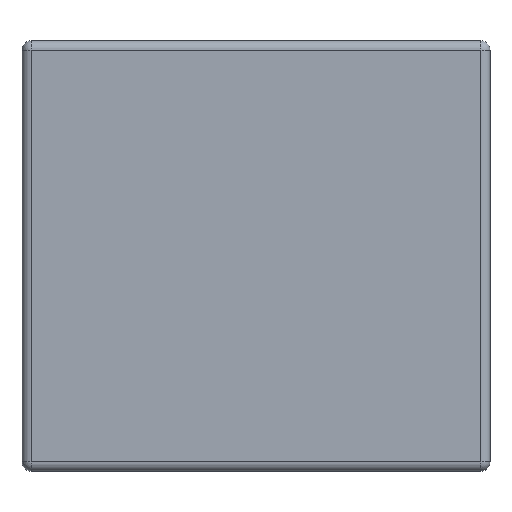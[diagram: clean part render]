
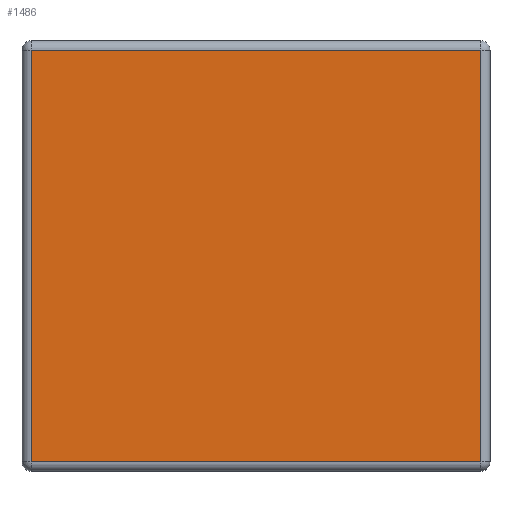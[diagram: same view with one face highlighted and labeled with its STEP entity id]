
A CAD part, front view. The second image highlights one B-rep face of the part: STEP entity #1486.
In plain terms, the highlighted planar face has unit normal (0, -1, 0).
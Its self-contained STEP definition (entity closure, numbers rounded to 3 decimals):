
#129=DIRECTION('',(0.,0.,1.));
#130=VECTOR('',#129,22.);
#131=CARTESIAN_POINT('',(-12.,0.,-11.));
#132=LINE('',#131,#130);
#490=DIRECTION('',(-1.,0.,0.));
#491=VECTOR('',#490,24.);
#492=CARTESIAN_POINT('',(12.,0.,-11.));
#493=LINE('',#492,#491);
#498=DIRECTION('',(0.,0.,-1.));
#499=VECTOR('',#498,22.);
#500=CARTESIAN_POINT('',(12.,0.,11.));
#501=LINE('',#500,#499);
#548=DIRECTION('',(1.,0.,0.));
#549=VECTOR('',#548,24.);
#550=CARTESIAN_POINT('',(-12.,0.,11.));
#551=LINE('',#550,#549);
#590=CARTESIAN_POINT('',(12.,0.,11.));
#592=VERTEX_POINT('',#590);
#594=CARTESIAN_POINT('',(-12.,0.,-11.));
#596=VERTEX_POINT('',#594);
#605=CARTESIAN_POINT('',(-12.,0.,11.));
#606=VERTEX_POINT('',#605);
#641=CARTESIAN_POINT('',(12.,0.,-11.));
#642=VERTEX_POINT('',#641);
#1473=CARTESIAN_POINT('',(0.,0.,0.));
#1474=DIRECTION('',(0.,1.,0.));
#1475=DIRECTION('',(0.,0.,1.));
#1476=AXIS2_PLACEMENT_3D('',#1473,#1474,#1475);
#1477=PLANE('',#1476);
#1479=ORIENTED_EDGE('',*,*,#1478,.T.);
#1480=ORIENTED_EDGE('',*,*,#1465,.T.);
#1481=ORIENTED_EDGE('',*,*,#923,.T.);
#1483=ORIENTED_EDGE('',*,*,#1482,.T.);
#1484=EDGE_LOOP('',(#1479,#1480,#1481,#1483));
#1485=FACE_OUTER_BOUND('',#1484,.F.);
#1486=ADVANCED_FACE('',(#1485),#1477,.F.);
#923=EDGE_CURVE('',#596,#606,#132,.T.);
#1465=EDGE_CURVE('',#642,#596,#493,.T.);
#1478=EDGE_CURVE('',#592,#642,#501,.T.);
#1482=EDGE_CURVE('',#606,#592,#551,.T.);
